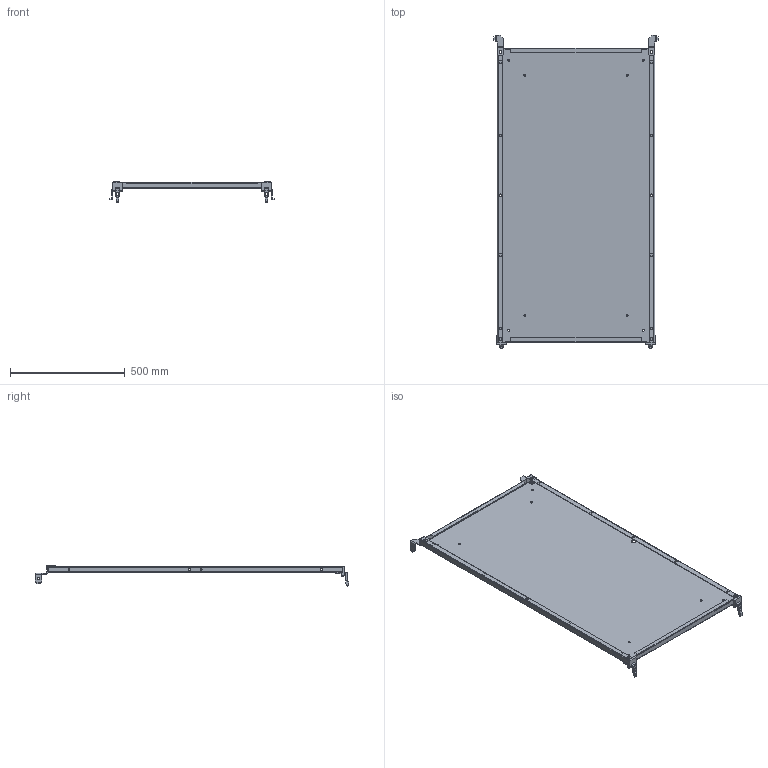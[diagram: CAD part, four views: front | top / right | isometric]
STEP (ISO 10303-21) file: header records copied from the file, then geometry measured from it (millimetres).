
FILE_DESCRIPTION (( 'STEP AP203' ), '1' );
FILE_NAME ('EUPA-080140.STEP', '2017-05-12T13:28:13', ( '' ), ( '' ), 'SwSTEP 2.0', 'SolidWorks 2017', '' );
FILE_SCHEMA (( 'CONFIG_CONTROL_DESIGN' ));
Length unit declared in the file: millimetre
Products named in the file (1): EUPA-080140
Bounding box: 716.2 x 1362.82 x 90.92 mm (x, y, z)
Volume: 2674691.7 mm3; surface area: 2111513.2 mm2
Topology: 1 solids, 1 shells, 328 faces, 918 edges, 598 vertices
Faces by surface type: plane 204, cylinder 118, bspline 6
Entity records: 10893 total; most frequent: CARTESIAN_POINT 2079, ORIENTED_EDGE 1836, DIRECTION 1788, EDGE_CURVE 918, LINE 646, VECTOR 646, VERTEX_POINT 598, AXIS2_PLACEMENT_3D 571
